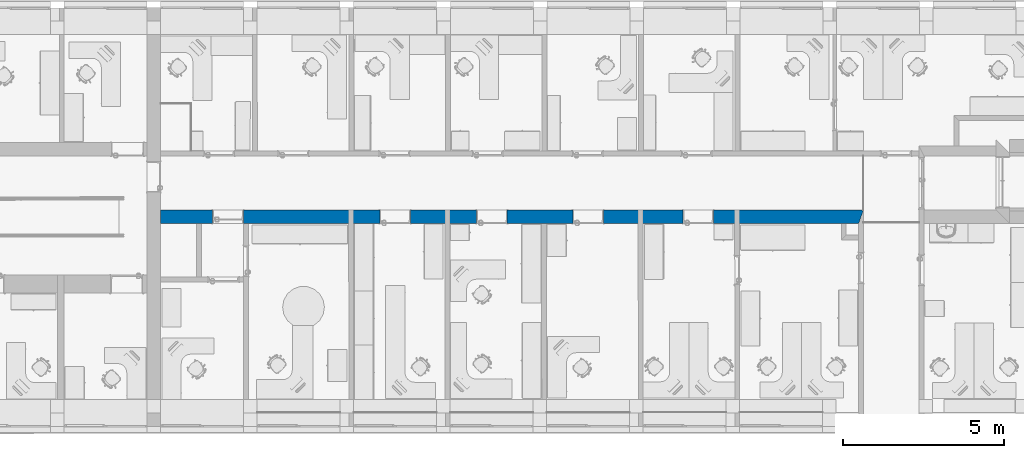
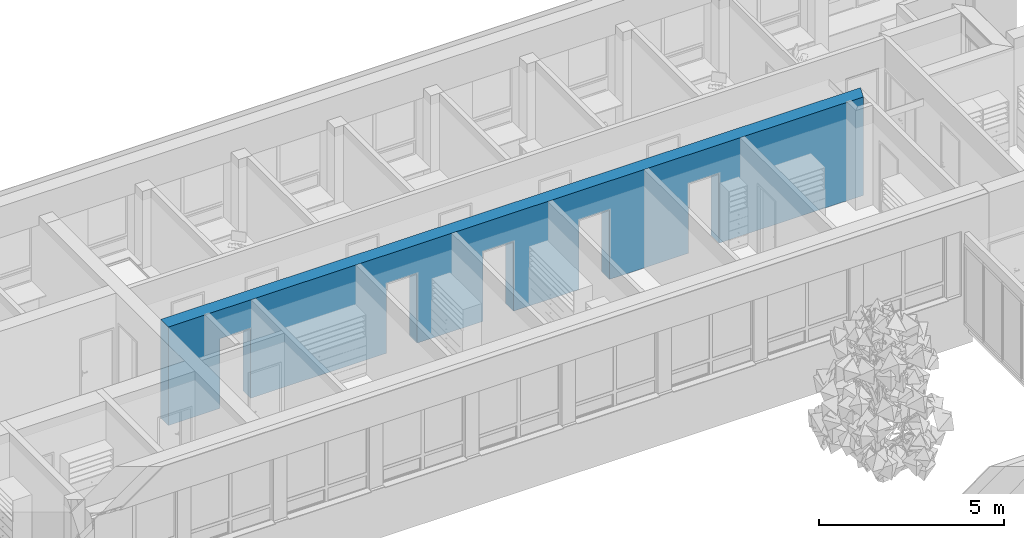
# One storey, part 30 of 194: 1 wall, 5 openings.
"""IFC2X3 building model written with IfcOpenShell, lengths in millimetres."""

from ifc_helpers import new_model, entity, si_unit, converted_unit, derived_unit, money_unit, direction, frame, origin_with_axes, origin_2d_with_axis, place, context, subcontext, project, spatial, polyline, rectangle, outline, extrude, material, layer, layer_set, layer_usage, type_object, element, save


model = new_model("IFC2X3")

# Units and contexts
model_context = context("Model", 3, precision=1e-05, world=origin_with_axes(), true_north=direction((0.0, 1.0)))
body_context = subcontext(model_context, "Body", "Model", "MODEL_VIEW")
ifc_project = project(units=[si_unit("LENGTHUNIT", "METRE", prefix="MILLI"), si_unit("AREAUNIT", "SQUARE_METRE"), si_unit("VOLUMEUNIT", "CUBIC_METRE"), converted_unit("PLANEANGLEUNIT", "DEGREE", entity("IfcPlaneAngleMeasure", 0.0174532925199), si_unit("PLANEANGLEUNIT", "RADIAN"), dimensions=[0, 0, 0, 0, 0, 0, 0]), si_unit("SOLIDANGLEUNIT", "STERADIAN"), money_unit("EUR"), converted_unit("TIMEUNIT", "Year", entity("IfcTimeMeasure", 31556926.0), si_unit("TIMEUNIT", "SECOND"), dimensions=[0, 0, 1, 0, 0, 0, 0]), si_unit("MASSUNIT", "GRAM", prefix="KILO"), si_unit("THERMODYNAMICTEMPERATUREUNIT", "DEGREE_CELSIUS"), si_unit("LUMINOUSINTENSITYUNIT", "LUMEN"), si_unit("ENERGYUNIT", "JOULE", prefix="MEGA"), derived_unit("THERMALCONDUCTANCEUNIT", [(si_unit("POWERUNIT", "WATT"), 1), (si_unit("LENGTHUNIT", "METRE"), -1), (si_unit("THERMODYNAMICTEMPERATUREUNIT", "KELVIN"), -1)]), derived_unit("SPECIFICHEATCAPACITYUNIT", [(si_unit("ENERGYUNIT", "JOULE"), 1), (si_unit("MASSUNIT", "GRAM", prefix="KILO"), -1), (si_unit("THERMODYNAMICTEMPERATUREUNIT", "KELVIN"), -1)]), derived_unit("MASSDENSITYUNIT", [(si_unit("MASSUNIT", "GRAM", prefix="KILO"), 1), (si_unit("VOLUMEUNIT", "CUBIC_METRE"), -1)])], contexts=[model_context])

# Site, building, storey
site_placement = place(None, origin_with_axes())
site = spatial("IfcSite", under=ifc_project, at=site_placement, Name="Site", CompositionType="ELEMENT")
building_placement = place(site_placement, origin_with_axes())
building = spatial("IfcBuilding", under=site, at=building_placement, Name="Building", CompositionType="ELEMENT")
storey_placement = place(building_placement, frame((0.0, 0.0, 3000.0), z_axis=(0.0, 0.0, 1.0), x_axis=(1.0, 0.0, 0.0)))
storey = spatial("IfcBuildingStorey", under=building, at=storey_placement, Name="2 KORRUS", CompositionType="ELEMENT", Elevation=3000.0)

# Wall, openings
ifc_material = material(Name="Kivi -Ol.Olev Konstruktsioon")
ifc_layer = layer(ifc_material, 420.0, ventilated="UNKNOWN")
ifc_layer_set = layer_set([ifc_layer], Name="ol.olev ss 420")
ifc_layer_usage = layer_usage(ifc_layer_set, "AXIS2", "POSITIVE", -420.0)
wall_type = type_object("IfcWallType", Name="SW - 022", PredefinedType="NOTDEFINED")
wall_placement = place(storey_placement, frame((16157.2268887, 65630.0283559, 0.0), z_axis=(0.0, 0.0, 1.0), x_axis=(1.0, 0.0, 0.0)))
wall = element("IfcWallStandardCase", 1, at=wall_placement, inside=storey, type_object=wall_type, material=ifc_layer_usage, Name="ol.olev ss 420", context=body_context, shape_type="SweptSolid", body=[
    extrude(outline(polyline([(-8.54188328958e-05, -420.0), (21693.7798609, -420.0), (21843.5218413, 0.0), (3.41060513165e-10, 0.0), (-8.54188328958e-05, -420.0)])), origin_with_axes(), (0.0, 0.0, 1.0), 3250.0),
])
opening_1_placement = place(wall_placement, frame((2094.88368199, 0.0, 0.0), z_axis=(0.0, 0.0, 1.0), x_axis=(1.0, 0.0, 0.0)))
element("IfcOpeningElement", 2, at=opening_1_placement, cuts=wall, Name="Siseuks * Door 22", context=body_context, shape_type="SweptSolid", body=[
    extrude(rectangle(XDim=950.0, YDim=2300.0, at=origin_2d_with_axis()), frame((0.0, -200.0, 1150.0), z_axis=(0.0, -1.0, 0.0), x_axis=(1.0, 0.0, 0.0)), (0.0, 0.0, 1.0), 640.0),
    extrude(rectangle(XDim=950.0, YDim=2300.0, at=origin_2d_with_axis()), frame((0.0, -200.000000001, 1150.0), z_axis=(0.0, 1.0, 0.0), x_axis=(1.0, 0.0, 0.0)), (0.0, 0.0, 1.0), 620.0),
    extrude(rectangle(XDim=1024.0, YDim=2337.0, at=origin_2d_with_axis()), frame((0.0, -420.0, 1168.5), z_axis=(0.0, -1.0, 0.0), x_axis=(1.0, 0.0, 0.0)), (0.0, 0.0, 1.0), 620.0),
    extrude(rectangle(XDim=1024.0, YDim=2337.0, at=origin_2d_with_axis()), frame((0.0, -9.09494701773e-10, 1168.5), z_axis=(0.0, 1.0, 0.0), x_axis=(1.0, 0.0, 0.0)), (0.0, 0.0, 1.0), 620.0),
])
opening_2_placement = place(wall_placement, frame((7289.49300998, 0.0, 0.0), z_axis=(0.0, 0.0, 1.0), x_axis=(1.0, 0.0, 0.0)))
element("IfcOpeningElement", 3, at=opening_2_placement, cuts=wall, Name="Siseuks * Door 22", context=body_context, shape_type="SweptSolid", body=[
    extrude(rectangle(XDim=950.0, YDim=2300.0, at=origin_2d_with_axis()), frame((0.0, 420.0, 1150.0), z_axis=(0.0, 1.0, 0.0), x_axis=(1.0, 0.0, 0.0)), (0.0, 0.0, -1.0), 1260.0),
    extrude(rectangle(XDim=1024.0, YDim=2337.0, at=origin_2d_with_axis()), frame((0.0, 0.0, 1168.5), z_axis=(0.0, 1.0, 0.0), x_axis=(1.0, 0.0, 0.0)), (0.0, 0.0, 1.0), 420.0),
    extrude(rectangle(XDim=1024.0, YDim=2337.0, at=origin_2d_with_axis()), frame((0.0, -420.0, 1168.5), z_axis=(0.0, -1.0, 0.0), x_axis=(1.0, 0.0, 0.0)), (0.0, 0.0, 1.0), 420.0),
])
opening_3_placement = place(wall_placement, frame((10293.3816527, 0.0, 0.0), z_axis=(0.0, 0.0, 1.0), x_axis=(1.0, 0.0, 0.0)))
element("IfcOpeningElement", 4, at=opening_3_placement, cuts=wall, Name="Siseuks * Door 22", context=body_context, shape_type="SweptSolid", body=[
    extrude(rectangle(XDim=950.0, YDim=2300.0, at=origin_2d_with_axis()), frame((0.0, 420.0, 1150.0), z_axis=(0.0, 1.0, 0.0), x_axis=(1.0, 0.0, 0.0)), (0.0, 0.0, -1.0), 1260.0),
    extrude(rectangle(XDim=1024.0, YDim=2337.0, at=origin_2d_with_axis()), frame((0.0, 0.0, 1168.5), z_axis=(0.0, 1.0, 0.0), x_axis=(1.0, 0.0, 0.0)), (0.0, 0.0, 1.0), 420.0),
    extrude(rectangle(XDim=1024.0, YDim=2337.0, at=origin_2d_with_axis()), frame((0.0, -420.0, 1168.5), z_axis=(0.0, -1.0, 0.0), x_axis=(1.0, 0.0, 0.0)), (0.0, 0.0, 1.0), 420.0),
])
opening_4_placement = place(wall_placement, frame((13289.654701, 0.0, 0.0), z_axis=(0.0, 0.0, 1.0), x_axis=(1.0, 0.0, 0.0)))
element("IfcOpeningElement", 5, at=opening_4_placement, cuts=wall, Name="Siseuks * Door 22", context=body_context, shape_type="SweptSolid", body=[
    extrude(rectangle(XDim=950.0, YDim=2300.0, at=origin_2d_with_axis()), frame((0.0, 420.0, 1150.0), z_axis=(0.0, 1.0, 0.0), x_axis=(1.0, 0.0, 0.0)), (0.0, 0.0, -1.0), 1260.0),
    extrude(rectangle(XDim=1024.0, YDim=2337.0, at=origin_2d_with_axis()), frame((0.0, 0.0, 1168.5), z_axis=(0.0, 1.0, 0.0), x_axis=(1.0, 0.0, 0.0)), (0.0, 0.0, 1.0), 420.0),
    extrude(rectangle(XDim=1024.0, YDim=2337.0, at=origin_2d_with_axis()), frame((0.0, -420.0, 1168.5), z_axis=(0.0, -1.0, 0.0), x_axis=(1.0, 0.0, 0.0)), (0.0, 0.0, 1.0), 420.0),
])
opening_5_placement = place(wall_placement, frame((16710.1020371, 0.0, 0.0), z_axis=(0.0, 0.0, 1.0), x_axis=(1.0, 0.0, 0.0)))
element("IfcOpeningElement", 6, at=opening_5_placement, cuts=wall, Name="Siseuks * Door 22", context=body_context, shape_type="SweptSolid", body=[
    extrude(rectangle(XDim=950.0, YDim=2300.0, at=origin_2d_with_axis()), frame((0.0, 420.0, 1150.0), z_axis=(0.0, 1.0, 0.0), x_axis=(1.0, 0.0, 0.0)), (0.0, 0.0, -1.0), 1260.0),
    extrude(rectangle(XDim=1024.0, YDim=2337.0, at=origin_2d_with_axis()), frame((0.0, 0.0, 1168.5), z_axis=(0.0, 1.0, 0.0), x_axis=(1.0, 0.0, 0.0)), (0.0, 0.0, 1.0), 420.0),
    extrude(rectangle(XDim=1024.0, YDim=2337.0, at=origin_2d_with_axis()), frame((0.0, -420.0, 1168.5), z_axis=(0.0, -1.0, 0.0), x_axis=(1.0, 0.0, 0.0)), (0.0, 0.0, 1.0), 420.0),
])

save(model, "model.ifc")
